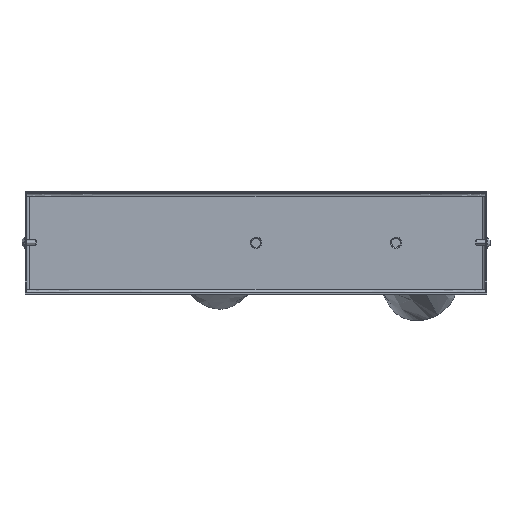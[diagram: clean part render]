
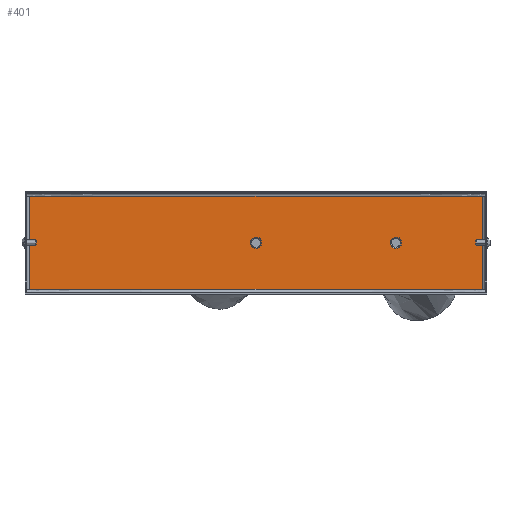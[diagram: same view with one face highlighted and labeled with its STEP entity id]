
A CAD part, top view. The second image highlights one B-rep face of the part: STEP entity #401.
In plain terms, the highlighted planar face has unit normal (0, 0, 1).
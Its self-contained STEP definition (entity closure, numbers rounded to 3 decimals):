
#401=ADVANCED_FACE('',(#1195,#836,#837),#11269,.T.);
#836=FACE_BOUND('',#1943,.T.);
#837=FACE_BOUND('',#1944,.T.);
#1195=FACE_OUTER_BOUND('',#1942,.T.);
#1942=EDGE_LOOP('',(#3999,#4000,#4001,#4002));
#1943=EDGE_LOOP('',(#4003,#4004));
#1944=EDGE_LOOP('',(#4005,#4006));
#3999=ORIENTED_EDGE('',*,*,#6823,.T.);
#4000=ORIENTED_EDGE('',*,*,#6820,.T.);
#4001=ORIENTED_EDGE('',*,*,#6821,.T.);
#4002=ORIENTED_EDGE('',*,*,#6822,.T.);
#4003=ORIENTED_EDGE('',*,*,#6800,.T.);
#4004=ORIENTED_EDGE('',*,*,#6950,.T.);
#4005=ORIENTED_EDGE('',*,*,#6948,.T.);
#4006=ORIENTED_EDGE('',*,*,#6804,.T.);
#6800=EDGE_CURVE('',#10137,#10138,#9220,.T.);
#6804=EDGE_CURVE('',#10141,#10142,#9222,.T.);
#6820=EDGE_CURVE('',#10161,#10162,#8299,.T.);
#6821=EDGE_CURVE('',#10162,#10163,#8300,.T.);
#6822=EDGE_CURVE('',#10163,#10164,#8301,.T.);
#6823=EDGE_CURVE('',#10164,#10161,#8302,.T.);
#6948=EDGE_CURVE('',#10142,#10141,#9252,.T.);
#6950=EDGE_CURVE('',#10138,#10137,#9254,.T.);
#8299=B_SPLINE_CURVE_WITH_KNOTS('',1,(#20187,#20188),.UNSPECIFIED.,.F.,
 .F.,(2,2),(0.,323.2),.UNSPECIFIED.);
#8300=B_SPLINE_CURVE_WITH_KNOTS('',1,(#20189,#20190),.UNSPECIFIED.,.F.,
 .F.,(2,2),(0.,66.6),.UNSPECIFIED.);
#8301=B_SPLINE_CURVE_WITH_KNOTS('',1,(#20191,#20192),.UNSPECIFIED.,.F.,
 .F.,(2,2),(0.,323.2),.UNSPECIFIED.);
#8302=B_SPLINE_CURVE_WITH_KNOTS('',1,(#20193,#20194),.UNSPECIFIED.,.F.,
 .F.,(2,2),(0.,66.6),.UNSPECIFIED.);
#9220=(
BOUNDED_CURVE()
B_SPLINE_CURVE(2,(#20135,#20136,#20137,#20138,#20139),.UNSPECIFIED.,.F.,
 .F.)
B_SPLINE_CURVE_WITH_KNOTS((3,2,3),(-12.723,-6.362,
0.),.UNSPECIFIED.)
CURVE()
GEOMETRIC_REPRESENTATION_ITEM()
RATIONAL_B_SPLINE_CURVE((1.,0.707,1.,0.707,1.))
REPRESENTATION_ITEM('')
);
#9222=(
BOUNDED_CURVE()
B_SPLINE_CURVE(2,(#20149,#20150,#20151,#20152,#20153),.UNSPECIFIED.,.F.,
 .F.)
B_SPLINE_CURVE_WITH_KNOTS((3,2,3),(-12.723,-6.362,
0.),.UNSPECIFIED.)
CURVE()
GEOMETRIC_REPRESENTATION_ITEM()
RATIONAL_B_SPLINE_CURVE((1.,0.707,1.,0.707,1.))
REPRESENTATION_ITEM('')
);
#9252=(
BOUNDED_CURVE()
B_SPLINE_CURVE(2,(#20471,#20472,#20473,#20474,#20475),.UNSPECIFIED.,.F.,
 .F.)
B_SPLINE_CURVE_WITH_KNOTS((3,2,3),(-12.723,-6.362,
0.),.UNSPECIFIED.)
CURVE()
GEOMETRIC_REPRESENTATION_ITEM()
RATIONAL_B_SPLINE_CURVE((1.,0.707,1.,0.707,1.))
REPRESENTATION_ITEM('')
);
#9254=(
BOUNDED_CURVE()
B_SPLINE_CURVE(2,(#20481,#20482,#20483,#20484,#20485),.UNSPECIFIED.,.F.,
 .F.)
B_SPLINE_CURVE_WITH_KNOTS((3,2,3),(-12.723,-6.362,
0.),.UNSPECIFIED.)
CURVE()
GEOMETRIC_REPRESENTATION_ITEM()
RATIONAL_B_SPLINE_CURVE((1.,0.707,1.,0.707,1.))
REPRESENTATION_ITEM('')
);
#10137=VERTEX_POINT('',#20015);
#10138=VERTEX_POINT('',#20016);
#10141=VERTEX_POINT('',#20019);
#10142=VERTEX_POINT('',#20020);
#10161=VERTEX_POINT('',#20039);
#10162=VERTEX_POINT('',#20040);
#10163=VERTEX_POINT('',#20041);
#10164=VERTEX_POINT('',#20042);
#11269=PLANE('',#11653);
#11653=AXIS2_PLACEMENT_3D('',#19677,#12021,$);
#12021=DIRECTION('',(0.,0.,1.));
#19677=CARTESIAN_POINT('',(-193.92,-13.834,52.305));
#20015=CARTESIAN_POINT('',(0.,-57.844,52.305));
#20016=CARTESIAN_POINT('',(0.,-49.744,52.305));
#20019=CARTESIAN_POINT('',(100.,-57.844,52.305));
#20020=CARTESIAN_POINT('',(100.,-49.744,52.305));
#20039=CARTESIAN_POINT('',(-161.6,-87.094,52.305));
#20040=CARTESIAN_POINT('',(161.6,-87.094,52.305));
#20041=CARTESIAN_POINT('',(161.6,-20.494,52.305));
#20042=CARTESIAN_POINT('',(-161.6,-20.494,52.305));
#20135=CARTESIAN_POINT('',(0.,-57.844,52.305));
#20136=CARTESIAN_POINT('',(-4.05,-57.844,52.305));
#20137=CARTESIAN_POINT('',(-4.05,-53.794,52.305));
#20138=CARTESIAN_POINT('',(-4.05,-49.744,52.305));
#20139=CARTESIAN_POINT('',(0.,-49.744,52.305));
#20149=CARTESIAN_POINT('',(100.,-57.844,52.305));
#20150=CARTESIAN_POINT('',(95.95,-57.844,52.305));
#20151=CARTESIAN_POINT('',(95.95,-53.794,52.305));
#20152=CARTESIAN_POINT('',(95.95,-49.744,52.305));
#20153=CARTESIAN_POINT('',(100.,-49.744,52.305));
#20187=CARTESIAN_POINT('',(-161.6,-87.094,52.305));
#20188=CARTESIAN_POINT('',(161.6,-87.094,52.305));
#20189=CARTESIAN_POINT('',(161.6,-87.094,52.305));
#20190=CARTESIAN_POINT('',(161.6,-20.494,52.305));
#20191=CARTESIAN_POINT('',(161.6,-20.494,52.305));
#20192=CARTESIAN_POINT('',(-161.6,-20.494,52.305));
#20193=CARTESIAN_POINT('',(-161.6,-20.494,52.305));
#20194=CARTESIAN_POINT('',(-161.6,-87.094,52.305));
#20471=CARTESIAN_POINT('',(100.,-49.744,52.305));
#20472=CARTESIAN_POINT('',(104.05,-49.744,52.305));
#20473=CARTESIAN_POINT('',(104.05,-53.794,52.305));
#20474=CARTESIAN_POINT('',(104.05,-57.844,52.305));
#20475=CARTESIAN_POINT('',(100.,-57.844,52.305));
#20481=CARTESIAN_POINT('',(0.,-49.744,52.305));
#20482=CARTESIAN_POINT('',(4.05,-49.744,52.305));
#20483=CARTESIAN_POINT('',(4.05,-53.794,52.305));
#20484=CARTESIAN_POINT('',(4.05,-57.844,52.305));
#20485=CARTESIAN_POINT('',(0.,-57.844,52.305));
